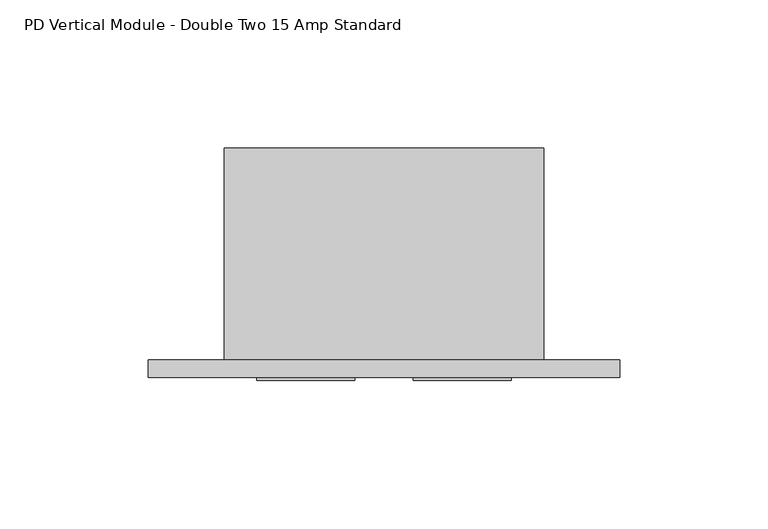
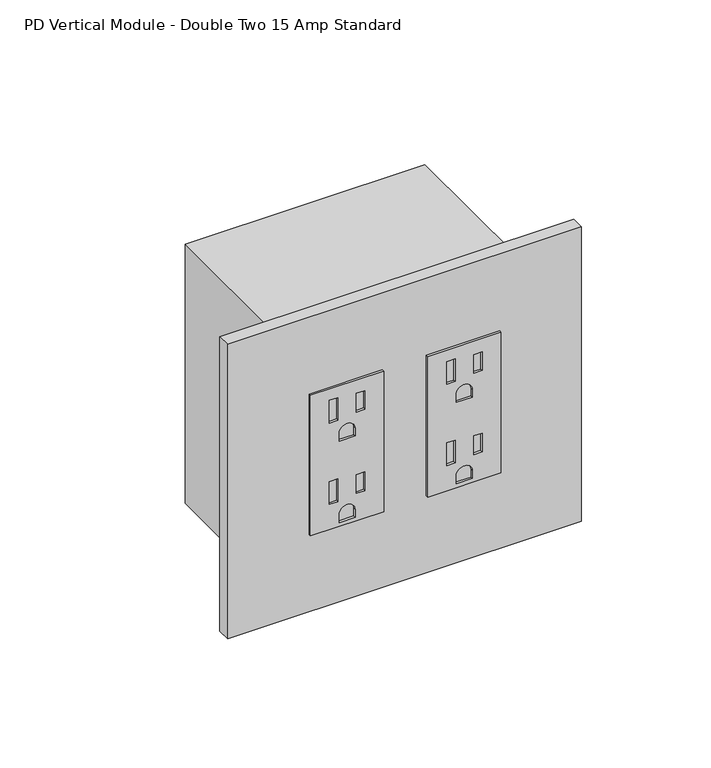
"""IFC4 building model written with IfcOpenShell, lengths in millimetres: proxy geometry, Electrical-Teknion-EPDMD_Vertical_Power_Data_Double-R2019 : PD Vertical Module - Double Two 15 Amp Standard."""

from ifc_helpers import new_model, si_unit, point, frame, frame_2d, origin, place, context, project, spatial, polyline, circle_curve, trimmed, segment, composite_curve, outline, extrude, source, transform, mapped, element, save


def pd_vertical_module_double_two_15_amp_standard_5d486d28(model_context):
    return source(origin(), model_context, "Body", "SweptSolid", [
        extrude(outline(polyline([(414.3876229, 96.9264), (414.3876229, 63.9318), (347.4332229, 63.9318), (347.4332229, 96.9264), (414.3876229, 96.9264)]), holes=[polyline([(409.0028229, 76.2762), (398.1824229, 76.2762), (398.1824229, 72.4408), (409.0028229, 72.4408), (409.0028229, 76.2762)]), polyline([(408.0249229, 88.4428), (399.1603229, 88.4428), (399.1603229, 84.6074), (408.0249229, 84.6074), (408.0249229, 88.4428)]), composite_curve([segment(polyline([(387.9970229, 76.7969), (391.6292229, 76.7969)]), True, "CONTINUOUS"), segment(trimmed(circle_curve(frame_2d((391.6292229, 80.4291)), 3.6322), [point((391.6292229, 76.7969))], [point((391.6292229, 84.0613))], True, "CARTESIAN"), True, "CONTINUOUS"), segment(polyline([(391.6292229, 84.0613), (387.9970229, 84.0613), (387.9970229, 76.7969)]), True, "CONTINUOUS")], self_intersect=False), polyline([(370.2678229, 76.2762), (359.4474229, 76.2762), (359.4474229, 72.4408), (370.2678229, 72.4408), (370.2678229, 76.2762)]), polyline([(369.2899229, 88.4428), (360.4253229, 88.4428), (360.4253229, 84.6074), (369.2899229, 84.6074), (369.2899229, 88.4428)]), composite_curve([segment(polyline([(352.8942229, 84.0613), (349.2620229, 84.0613), (349.2620229, 76.7969), (352.8942229, 76.7969)]), True, "CONTINUOUS"), segment(trimmed(circle_curve(frame_2d((352.8942229, 80.4291)), 3.6322), [point((352.8942229, 76.7969))], [point((352.8942229, 84.0613))], True, "CARTESIAN"), True, "CONTINUOUS")], self_intersect=False)]), frame((0.0, -6.9294746, 0.0), z_axis=(0.0, 1.0, 0.0), x_axis=(0.0, 0.0, 1.0)), (0.0, 0.0, 1.0), 1.0366746),
        extrude(outline(polyline([(414.3876229, 44.0944), (414.3876229, 11.0998), (347.4332229, 11.0998), (347.4332229, 44.0944), (414.3876229, 44.0944)]), holes=[polyline([(409.0028229, 23.4442), (398.1824229, 23.4442), (398.1824229, 19.6088), (409.0028229, 19.6088), (409.0028229, 23.4442)]), polyline([(408.0249229, 35.6108), (399.1603229, 35.6108), (399.1603229, 31.7754), (408.0249229, 31.7754), (408.0249229, 35.6108)]), composite_curve([segment(polyline([(387.9970229, 31.2293), (387.9970229, 23.9649), (391.6292229, 23.9649)]), True, "CONTINUOUS"), segment(trimmed(circle_curve(frame_2d((391.6292229, 27.5971)), 3.6322), [point((391.6292229, 23.9649))], [point((391.6292229, 31.2293))], True, "CARTESIAN"), True, "CONTINUOUS"), segment(polyline([(391.6292229, 31.2293), (387.9970229, 31.2293)]), True, "CONTINUOUS")], self_intersect=False), polyline([(370.2678229, 23.4442), (359.4474229, 23.4442), (359.4474229, 19.6088), (370.2678229, 19.6088), (370.2678229, 23.4442)]), polyline([(369.2899229, 35.6108), (360.4253229, 35.6108), (360.4253229, 31.7754), (369.2899229, 31.7754), (369.2899229, 35.6108)]), composite_curve([segment(polyline([(349.2620229, 31.2293), (349.2620229, 23.9649), (352.8942229, 23.9649)]), True, "CONTINUOUS"), segment(trimmed(circle_curve(frame_2d((352.8942229, 27.5971)), 3.6322), [point((352.8942229, 23.9649))], [point((352.8942229, 31.2293))], True, "CARTESIAN"), True, "CONTINUOUS"), segment(polyline([(352.8942229, 31.2293), (349.2620229, 31.2293)]), True, "CONTINUOUS")], self_intersect=False)]), frame((0.0, -6.9294746, 0.0), z_axis=(0.0, 1.0, 0.0), x_axis=(0.0, 0.0, 1.0)), (0.0, 0.0, 1.0), 1.0366746),
        extrude(outline(polyline([(-25.6794, 0.0), (133.7056, 0.0), (133.7056, -5.8928), (-25.6794, -5.8928), (-25.6794, 0.0)])), frame((0.0, 0.0, 310.7302229), z_axis=(0.0, 0.0, 1.0), x_axis=(1.0, 0.0, 0.0)), (0.0, 0.0, 1.0), 140.3604),
        extrude(outline(polyline([(108.0262, 0.0), (0.0, 0.0), (0.0, 71.7296), (108.0262, 71.7296), (108.0262, 0.0)])), frame((0.0, 0.0, 319.1630229), z_axis=(0.0, 0.0, 1.0), x_axis=(1.0, 0.0, 0.0)), (0.0, 0.0, 1.0), 123.4948),
    ])


if __name__ == "__main__":
    model = new_model("IFC4")
    model_context = context("Model", 3, world=origin())
    ifc_project = project(units=[si_unit("LENGTHUNIT", "METRE", prefix="MILLI")], contexts=[model_context])
    site = spatial("IfcSite", under=ifc_project)
    building = spatial("IfcBuilding", under=site)
    placement = place(None, origin())
    pd_vertical_module_double_two_15_amp_standard_shape = pd_vertical_module_double_two_15_amp_standard_5d486d28(model_context)
    element("IfcBuildingElementProxy", 1, Name="Electrical-Teknion-EPDMD_Vertical_Power_Data_Double-R2019 : PD Vertical Module - Double Two 15 Amp Standard", ObjectType="Electrical-Teknion-EPDMD_Vertical_Power_Data_Double-R2019 : PD Vertical Module - Double Two 15 Amp Standard", at=placement, inside=building, context=model_context, shape_type="MappedRepresentation", body=[
        mapped(pd_vertical_module_double_two_15_amp_standard_shape, transform((0.0, 0.0, 0.0), x_axis=(1.0, 0.0, 0.0), y_axis=(0.0, 1.0, 0.0), z_axis=(0.0, 0.0, 1.0))),
    ])
    save(model, "model.ifc")
